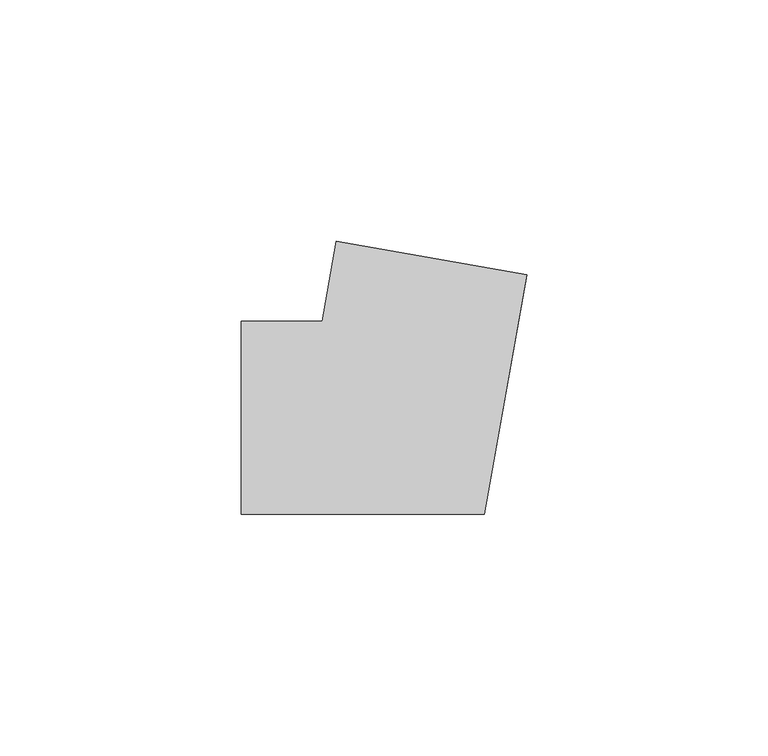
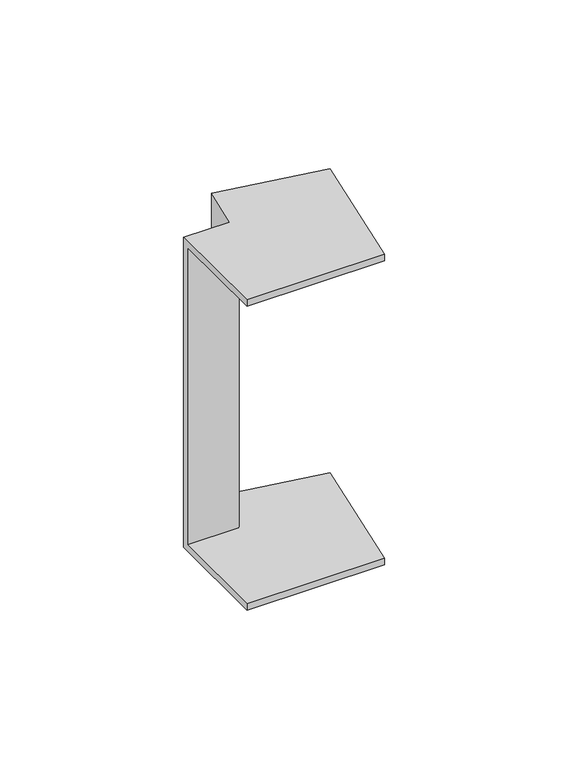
"""IFC4 building model written with IfcOpenShell, lengths in millimetres: cable carrier fitting geometry, КНС_УголВнешний_ILC_DKC : Угол внешний_DKC."""

from ifc_helpers import new_model, si_unit, origin, place, context, project, spatial, faceted_brep, source, transform, mapped, element, save


def cable_carrier_fitting_9db2d370(model_context):
    return source(origin(), model_context, "Body", "Brep", [
        faceted_brep([(-33.5639852, 20.0, 60.0), (-33.5639852, 20.0, -60.0), (-33.5639852, -20.0, -60.0), (-33.5639852, -20.0, -57.5), (-33.5639852, 17.5, -57.5), (-33.5639852, 17.5, 57.5), (-33.5639852, -20.0, 57.5), (-33.5639852, -20.0, 60.0), (-13.8678302, 36.5270364, 60.0), (25.5244799, 29.5811093, 60.0), (25.5244799, 29.5811093, 57.5), (-11.4058108, 36.092916, 57.5), (-11.4058108, 36.092916, -57.5), (25.5244799, 29.5811093, -57.5), (25.5244799, 29.5811093, -60.0), (-13.8678302, 36.5270364, -60.0), (-16.7819926, 20.0, 60.0), (-16.7819926, 20.0, -60.0), (16.7819926, -20.0, -60.0), (16.7819926, -20.0, -57.5), (-14.6842435, 17.5, -57.5), (-14.6842435, 17.5, 57.5), (16.7819926, -20.0, 57.5), (16.7819926, -20.0, 60.0)], [[[0, 1, 2, 3, 4, 5, 6, 7]], [[8, 9, 10, 11, 12, 13, 14, 15]], [[1, 0, 16, 17]], [[2, 1, 17, 15, 14, 18]], [[3, 2, 18, 19]], [[4, 3, 19, 13, 12, 20]], [[5, 4, 20, 21]], [[6, 5, 21, 11, 10, 22]], [[7, 6, 22, 23]], [[0, 7, 23, 9, 8, 16]], [[17, 16, 8, 15]], [[19, 18, 14, 13]], [[21, 20, 12, 11]], [[23, 22, 10, 9]]]),
    ])


if __name__ == "__main__":
    model = new_model("IFC4")
    model_context = context("Model", 3, world=origin())
    ifc_project = project(units=[si_unit("LENGTHUNIT", "METRE", prefix="MILLI")], contexts=[model_context])
    site = spatial("IfcSite", under=ifc_project)
    building = spatial("IfcBuilding", under=site)
    placement = place(None, origin())
    cable_carrier_fitting_shape = cable_carrier_fitting_9db2d370(model_context)
    element("IfcCableCarrierFitting", 1, ObjectType="КНС_УголВнешний_ILC_DKC : Угол внешний_DKC", at=placement, inside=building, context=model_context, shape_type="MappedRepresentation", body=[
        mapped(cable_carrier_fitting_shape, transform((0.0, 0.0, 0.0), x_axis=(1.0, 0.0, 0.0), y_axis=(0.0, 1.0, 0.0), z_axis=(0.0, 0.0, 1.0))),
    ])
    save(model, "model.ifc")
